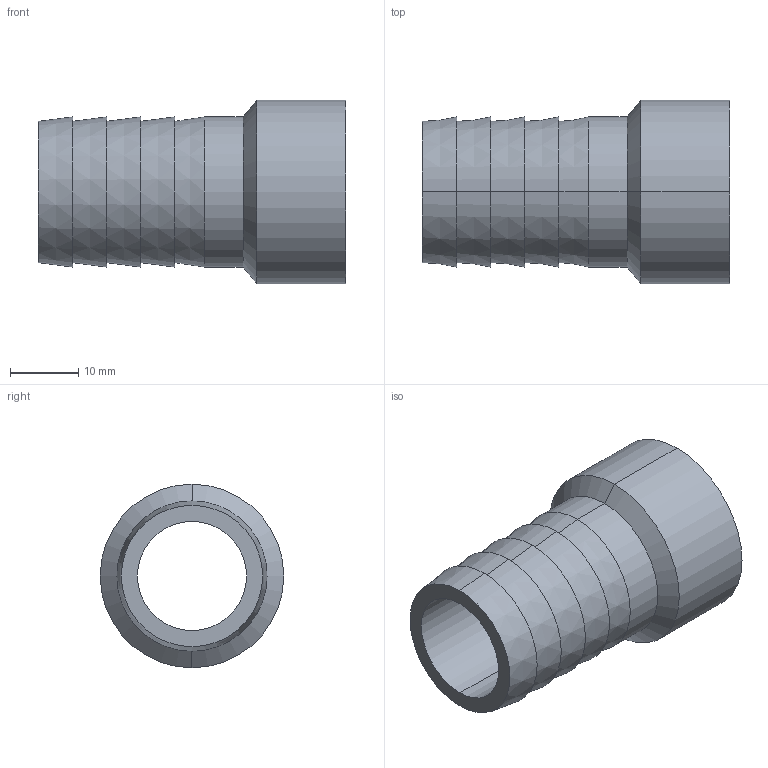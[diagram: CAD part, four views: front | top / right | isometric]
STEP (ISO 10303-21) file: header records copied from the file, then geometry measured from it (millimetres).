
FILE_DESCRIPTION (( 'STEP AP203' ), '1' );
FILE_NAME ('3D_R141-K_26.9-22_171313000.STEP', '2024-08-19T13:39:39', ( '' ), ( '' ), 'SwSTEP 2.0', 'SolidWorks 2024', '' );
FILE_SCHEMA (( 'CONFIG_CONTROL_DESIGN' ));
Length unit declared in the file: millimetre
Products named in the file (1): 3D_R141-K_26.9-22_171313000
Bounding box: 45 x 26.9 x 26.9 mm (x, y, z)
Volume: 7410.9 mm3; surface area: 6518.2 mm2
Topology: 1 solids, 1 shells, 28 faces, 56 edges, 34 vertices
Faces by surface type: cone 14, cylinder 8, plane 6
Entity records: 815 total; most frequent: DIRECTION 148, CARTESIAN_POINT 119, ORIENTED_EDGE 112, AXIS2_PLACEMENT_3D 63, EDGE_CURVE 56, CIRCLE 34, VERTEX_POINT 34, EDGE_LOOP 34
